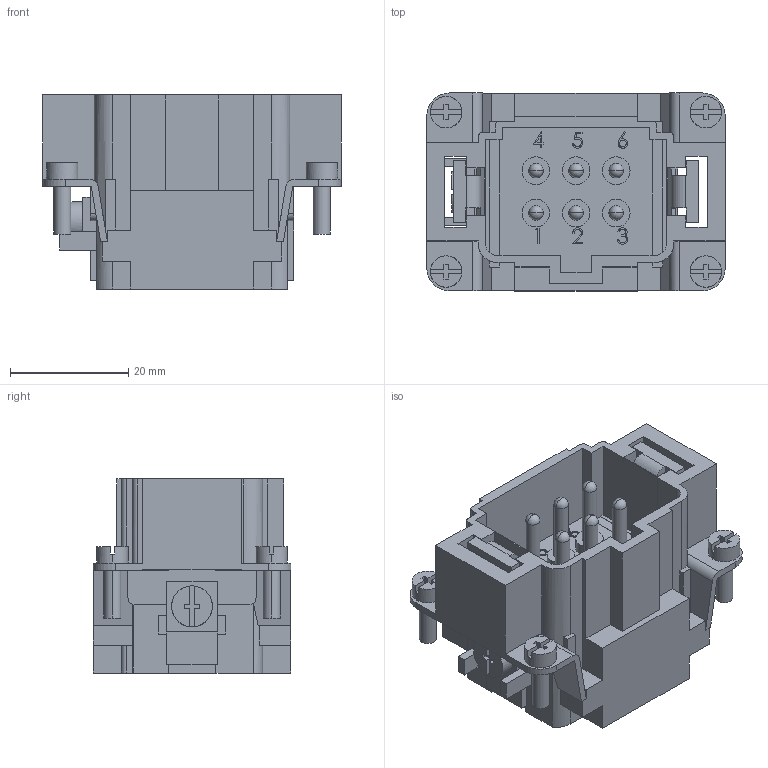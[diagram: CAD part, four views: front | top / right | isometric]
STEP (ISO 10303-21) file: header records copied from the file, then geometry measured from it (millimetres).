
FILE_DESCRIPTION (( 'STEP AP214' ), '1' );
FILE_NAME ('CSEM-06.STEP', '2006-07-06T13:03:37', ( 'Mencom User' ), ( 'Mencom Corporation' ), 'SwSTEP 2.0', 'SolidWorks 2006104', '' );
FILE_SCHEMA (( 'AUTOMOTIVE_DESIGN' ));
Length unit declared in the file: inch
Products named in the file (1): CSEM-06
Bounding box: 50.55 x 33.53 x 32.89 mm (x, y, z)
Volume: 23632 mm3; surface area: 15091.3 mm2
Topology: 1 solids, 5 shells, 623 faces, 1672 edges, 1106 vertices
Faces by surface type: plane 443, cylinder 94, bspline 74, torus 12
Entity records: 30353 total; most frequent: CARTESIAN_POINT 10382, ORIENTED_EDGE 3344, DIRECTION 2844, EDGE_CURVE 1672, VECTOR 1268, LINE 1268, VERTEX_POINT 1106, AXIS2_PLACEMENT_3D 788
